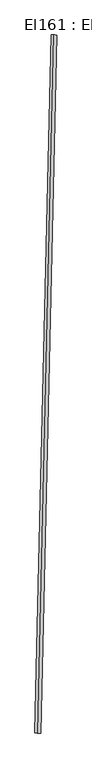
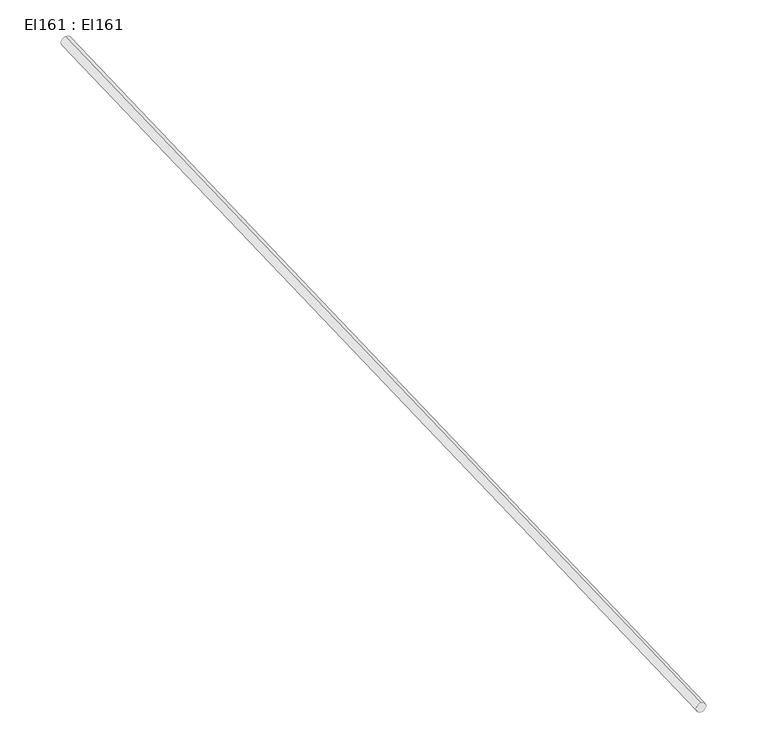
"""IFC4 building model written with IfcOpenShell, lengths in millimetres: cable carrier segment geometry, El161 : El161."""

from ifc_helpers import new_model, si_unit, point, frame, frame_2d, origin, place, context, project, spatial, circle_curve, trimmed, segment, composite_curve, outline, extrude, source, transform, mapped, element, save


def el161_el161_b6d76bf4(model_context):
    return source(origin(), model_context, "Body", "SweptSolid", [
        extrude(outline(composite_curve([segment(trimmed(circle_curve(frame_2d((0.0, -9.5)), 9.5), [point((0.0, -19.0))], [point((0.0, 0.0))], False, "CARTESIAN"), True, "CONTINUOUS"), segment(trimmed(circle_curve(frame_2d((0.0, -9.5)), 9.5), [point((0.0, 0.0))], [point((0.0, -19.0))], False, "CARTESIAN"), True, "CONTINUOUS")], self_intersect=False)), frame((15918.148932, 10123.2518685, 2959.5), z_axis=(0.023070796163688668, 0.9997338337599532, 0.0), x_axis=(-0.9997338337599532, 0.023070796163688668, 0.0)), (0.0, 0.0, 1.0), 2223.68),
    ])


if __name__ == "__main__":
    model = new_model("IFC4")
    model_context = context("Model", 3, world=origin())
    ifc_project = project(units=[si_unit("LENGTHUNIT", "METRE", prefix="MILLI")], contexts=[model_context])
    site = spatial("IfcSite", under=ifc_project)
    building = spatial("IfcBuilding", under=site)
    placement = place(None, origin())
    el161_el161_shape = el161_el161_b6d76bf4(model_context)
    element("IfcCableCarrierSegment", 1, ObjectType="El161 : El161", at=placement, inside=building, context=model_context, shape_type="MappedRepresentation", body=[
        mapped(el161_el161_shape, transform((0.0, 0.0, 0.0), x_axis=(1.0, 0.0, 0.0), y_axis=(0.0, 1.0, 0.0), z_axis=(0.0, 0.0, 1.0))),
    ])
    save(model, "model.ifc")
